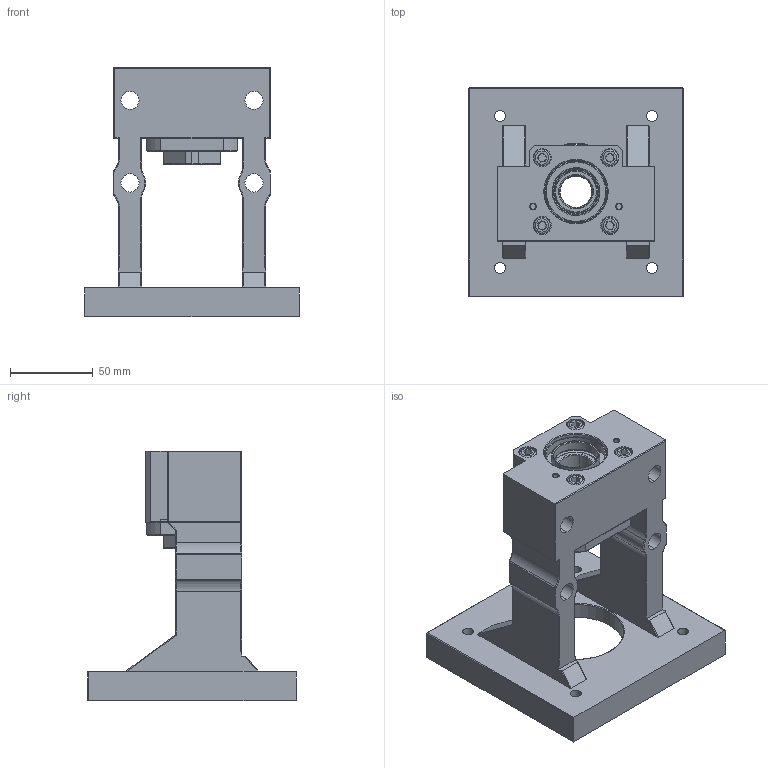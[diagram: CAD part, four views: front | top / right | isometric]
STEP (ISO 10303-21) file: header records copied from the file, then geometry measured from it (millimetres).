
FILE_DESCRIPTION (( 'STEP AP203' ), '1' );
FILE_NAME ('MBCF20-S.STEP', '2017-12-28T07:28:23', ( '' ), ( '' ), 'SwSTEP 2.0', 'SolidWorks 2017', '' );
FILE_SCHEMA (( 'CONFIG_CONTROL_DESIGN' ));
Length unit declared in the file: millimetre
Products named in the file (1): MBCF20-S
Bounding box: 130 x 126 x 151 mm (x, y, z)
Surface area: 105982.4 mm2 (no closed solid volume)
Topology: 0 solids, 20 shells, 384 faces, 991 edges, 627 vertices
Faces by surface type: cylinder 151, plane 113, torus 58, cone 52, sphere 6, bspline 4
Entity records: 12853 total; most frequent: CARTESIAN_POINT 3433, DIRECTION 2062, ORIENTED_EDGE 1805, EDGE_CURVE 979, AXIS2_PLACEMENT_3D 818, VERTEX_POINT 621, EDGE_LOOP 453, CIRCLE 437
